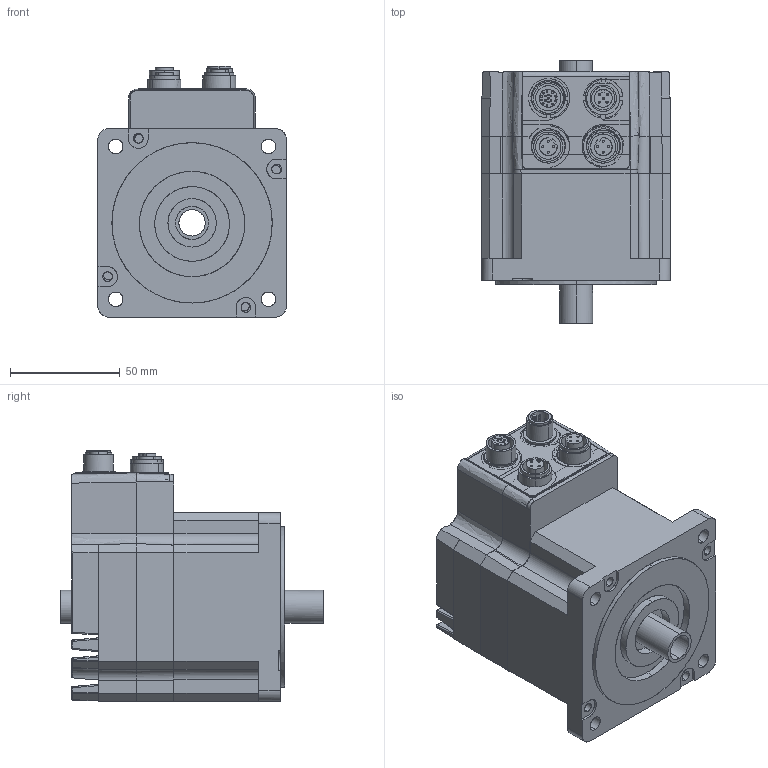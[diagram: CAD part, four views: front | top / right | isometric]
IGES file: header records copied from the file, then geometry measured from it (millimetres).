
Start section: Comment
Global section: file name: MIS340C31xxxx85.igs; native system:  By UGS Corp.; preprocessor: XPlus GENERIC/IGES 3.0; author: Author; organization: Title; date: 20141023.130539; units: millimetre
Bounding box: 86.49 x 119.5 x 114.59 mm (x, y, z)
Surface area: 101373.1 mm2 (no closed solid volume)
Topology: 0 solids, 0 shells, 1277 faces, 6445 edges, 6439 vertices
Faces by surface type: bspline 1277
